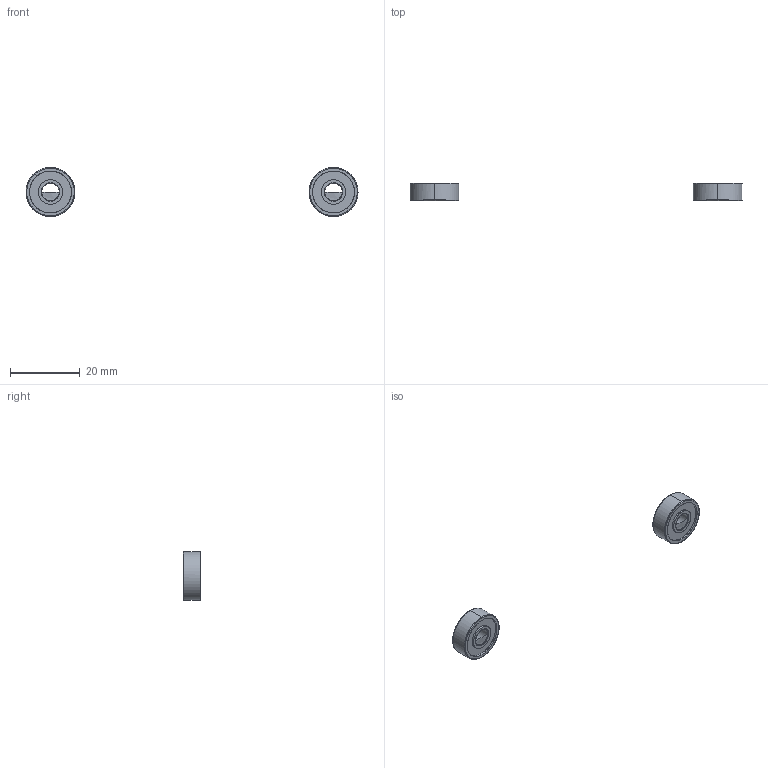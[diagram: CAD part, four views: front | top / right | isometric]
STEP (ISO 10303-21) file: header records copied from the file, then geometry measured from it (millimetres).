
FILE_DESCRIPTION(/* description */ (''),/* implementation_level */ '2;1');
FILE_NAME(/* name */ '7.x-cart#7.6#B605ZZ',/* time_stamp */ '2014-12-01T20:17:37+01:00',/* author */ (''),/* organization */ (''),/* preprocessor_version */ 'ST-DEVELOPER v14',/* originating_system */ '',/* authorisation */ '');
FILE_SCHEMA (('AUTOMOTIVE_DESIGN'));
Length unit declared in the file: millimetre
Products named in the file (2): Document; ball bearing 5x14x5mm
Assembly tree (2 placements, depth 2):
  Document
    ball bearing 5x14x5mm  x2
Bounding box: 95 x 5 x 14 mm (x, y, z)
Surface area: 1234.3 mm2 (no closed solid volume)
Topology: 0 solids, 52 shells, 52 faces, 184 edges, 182 vertices
Faces by surface type: bspline 40, plane 12
Entity records: 2736 total; most frequent: CARTESIAN_POINT 1639, B_SPLINE_CURVE_WITH_KNOTS 103, ORIENTED_EDGE 91, PCURVE 91, DEFINITIONAL_REPRESENTATION 91, SURFACE_CURVE 91, EDGE_CURVE 91, VERTEX_POINT 91
